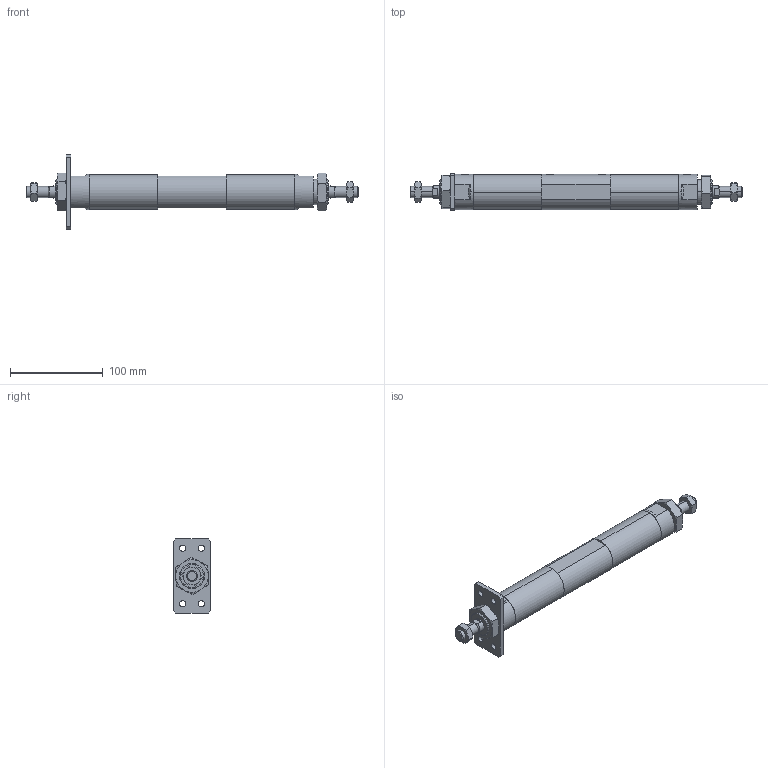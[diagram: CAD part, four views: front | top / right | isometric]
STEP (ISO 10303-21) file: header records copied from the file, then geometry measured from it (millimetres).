
FILE_DESCRIPTION (( 'STEP AP203' ), '1' );
FILE_NAME ('JGD7-32-25-25-A.STEP', '2016-04-19T07:23:50', ( '' ), ( '' ), 'SwSTEP 2.0', 'SolidWorks 2014', '' );
FILE_SCHEMA (( 'CONFIG_CONTROL_DESIGN' ));
Length unit declared in the file: millimetre
Products named in the file (7): JGD7-32-25-25-A; J#2-32-A; JGD2-32MI; M12x1.25-7mm; JGLH2-32B; M27x2-10mm; 32-25
Assembly tree (10 placements, depth 2):
  JGD7-32-25-25-A
    JGLH2-32B  x2
    32-25  x2
    JGD2-32MI
    M12x1.25-7mm  x2
    M27x2-10mm  x2
    J#2-32-A
Bounding box: 358 x 40 x 80 mm (x, y, z)
Volume: 334631.8 mm3; surface area: 64675.5 mm2
Topology: 10 solids, 10 shells, 192 faces, 430 edges, 258 vertices
Faces by surface type: plane 70, cylinder 48, torus 48, cone 26
Entity records: 4548 total; most frequent: CARTESIAN_POINT 1195, DIRECTION 537, ORIENTED_EDGE 504, EDGE_CURVE 252, AXIS2_PLACEMENT_3D 220, VERTEX_POINT 156, EDGE_LOOP 132, ADVANCED_FACE 113
